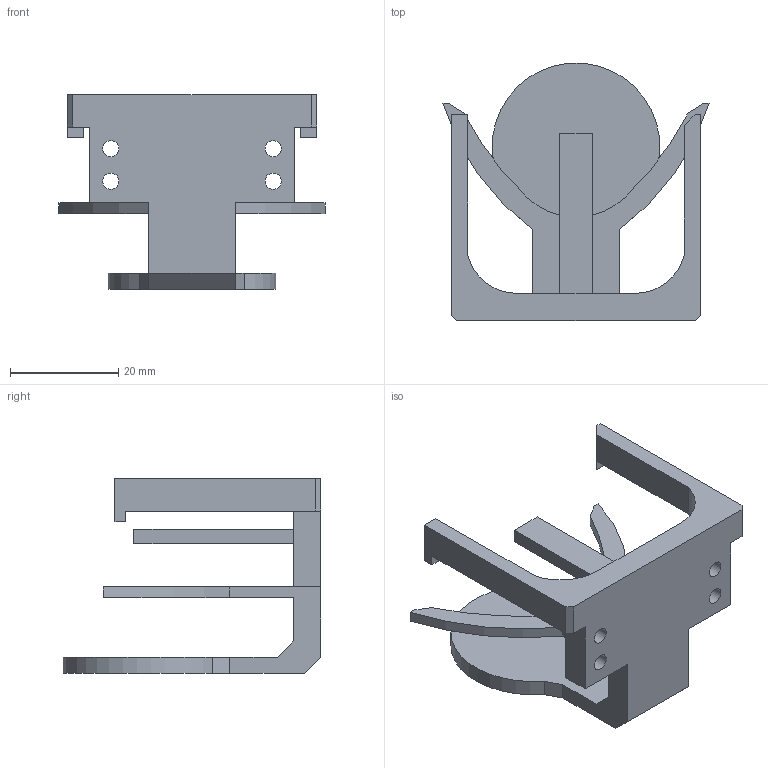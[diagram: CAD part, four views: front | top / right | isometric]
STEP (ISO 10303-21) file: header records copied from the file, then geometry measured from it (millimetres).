
FILE_DESCRIPTION(/* description */ (''),/* implementation_level */ '2;1');
FILE_NAME(/* name */ 'D:/pobrane/pwr/sem 6/konkurs kompozytywni/step/suwak_przycisku.step',/* time_stamp */ '2021-05-10T22:33:54+02:00',/* author */ (''),/* organization */ (''),/* preprocessor_version */ 'ST-DEVELOPER v18.1',/* originating_system */ 'Autodesk Translation Framework v10.6.0.1341',/* authorisation */ '');
FILE_SCHEMA (('AUTOMOTIVE_DESIGN { 1 0 10303 214 3 1 1 }'));
Length unit declared in the file: millimetre
Products named in the file (1): suwak_przycisku
Bounding box: 49.13 x 47.54 x 36 mm (x, y, z)
Volume: 10749.7 mm3; surface area: 8066.2 mm2
Topology: 1 solids, 1 shells, 54 faces, 150 edges, 99 vertices
Faces by surface type: plane 42, cylinder 12
Full cylindrical faces by diameter (mm): 3 x4
Entity records: 1763 total; most frequent: CARTESIAN_POINT 304, ORIENTED_EDGE 300, DIRECTION 284, EDGE_CURVE 150, LINE 126, VECTOR 126, VERTEX_POINT 99, AXIS2_PLACEMENT_3D 79
